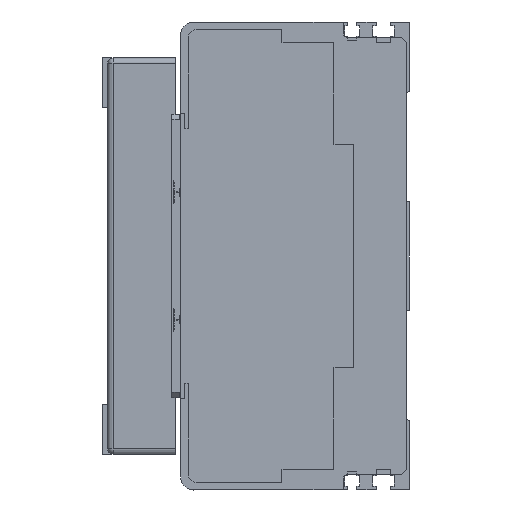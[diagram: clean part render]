
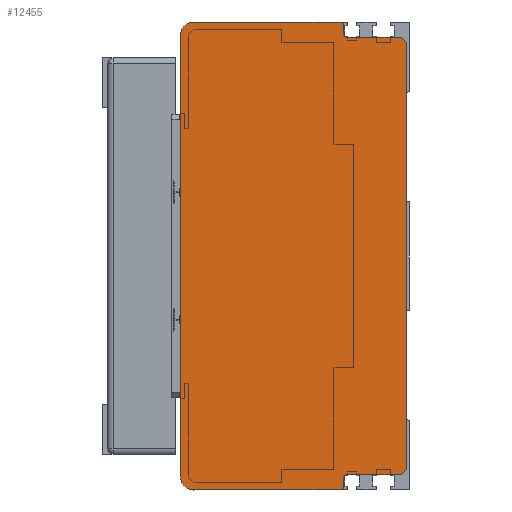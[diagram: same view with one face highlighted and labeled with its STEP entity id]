
A CAD part, left-side view. The second image highlights one B-rep face of the part: STEP entity #12455.
In plain terms, the highlighted planar face has unit normal (-1, 0, 0) as drawn and (0, 0, -1) by its records, which use the part's own axes.
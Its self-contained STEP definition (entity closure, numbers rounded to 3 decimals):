
#945=CIRCLE('',#13306,2.);
#946=CIRCLE('',#13307,5.);
#947=CIRCLE('',#13308,5.);
#948=CIRCLE('',#13309,2.);
#1252=FACE_OUTER_BOUND('',#2014,.T.);
#2014=EDGE_LOOP('',(#8458,#8459,#8460,#8461,#8462,#8463,#8464,#8465,#8466,
#8467,#8468,#8469,#8470,#8471));
#2901=LINE('',#17509,#4077);
#2902=LINE('',#17511,#4078);
#2903=LINE('',#17515,#4079);
#2904=LINE('',#17517,#4080);
#2905=LINE('',#17521,#4081);
#2906=LINE('',#17525,#4082);
#2907=LINE('',#17527,#4083);
#2908=LINE('',#17531,#4084);
#2909=LINE('',#17533,#4085);
#2910=LINE('',#17534,#4086);
#4077=VECTOR('',#14419,2.828);
#4078=VECTOR('',#14420,20.5);
#4079=VECTOR('',#14423,4.);
#4080=VECTOR('',#14424,57.5);
#4081=VECTOR('',#14427,170.);
#4082=VECTOR('',#14430,57.5);
#4083=VECTOR('',#14431,4.);
#4084=VECTOR('',#14434,20.5);
#4085=VECTOR('',#14435,2.828);
#4086=VECTOR('',#14436,164.);
#5285=VERTEX_POINT('',#17507);
#5286=VERTEX_POINT('',#17508);
#5287=VERTEX_POINT('',#17510);
#5288=VERTEX_POINT('',#17512);
#5289=VERTEX_POINT('',#17514);
#5290=VERTEX_POINT('',#17516);
#5291=VERTEX_POINT('',#17518);
#5292=VERTEX_POINT('',#17520);
#5293=VERTEX_POINT('',#17522);
#5294=VERTEX_POINT('',#17524);
#5295=VERTEX_POINT('',#17526);
#5296=VERTEX_POINT('',#17528);
#5297=VERTEX_POINT('',#17530);
#5298=VERTEX_POINT('',#17532);
#6558=EDGE_CURVE('',#5285,#5286,#2901,.T.);
#6559=EDGE_CURVE('',#5285,#5287,#2902,.T.);
#6560=EDGE_CURVE('',#5288,#5287,#945,.T.);
#6561=EDGE_CURVE('',#5288,#5289,#2903,.T.);
#6562=EDGE_CURVE('',#5289,#5290,#2904,.T.);
#6563=EDGE_CURVE('',#5290,#5291,#946,.T.);
#6564=EDGE_CURVE('',#5291,#5292,#2905,.T.);
#6565=EDGE_CURVE('',#5292,#5293,#947,.T.);
#6566=EDGE_CURVE('',#5293,#5294,#2906,.T.);
#6567=EDGE_CURVE('',#5294,#5295,#2907,.T.);
#6568=EDGE_CURVE('',#5296,#5295,#948,.T.);
#6569=EDGE_CURVE('',#5296,#5297,#2908,.T.);
#6570=EDGE_CURVE('',#5298,#5297,#2909,.T.);
#6571=EDGE_CURVE('',#5298,#5286,#2910,.T.);
#8458=ORIENTED_EDGE('',*,*,#6558,.F.);
#8459=ORIENTED_EDGE('',*,*,#6559,.T.);
#8460=ORIENTED_EDGE('',*,*,#6560,.F.);
#8461=ORIENTED_EDGE('',*,*,#6561,.T.);
#8462=ORIENTED_EDGE('',*,*,#6562,.T.);
#8463=ORIENTED_EDGE('',*,*,#6563,.T.);
#8464=ORIENTED_EDGE('',*,*,#6564,.T.);
#8465=ORIENTED_EDGE('',*,*,#6565,.T.);
#8466=ORIENTED_EDGE('',*,*,#6566,.T.);
#8467=ORIENTED_EDGE('',*,*,#6567,.T.);
#8468=ORIENTED_EDGE('',*,*,#6568,.F.);
#8469=ORIENTED_EDGE('',*,*,#6569,.T.);
#8470=ORIENTED_EDGE('',*,*,#6570,.F.);
#8471=ORIENTED_EDGE('',*,*,#6571,.T.);
#12010=PLANE('',#13305);
#12455=ADVANCED_FACE('',(#1252),#12010,.T.);
#13305=AXIS2_PLACEMENT_3D('',#17506,#14417,#14418);
#13306=AXIS2_PLACEMENT_3D('',#17513,#14421,#14422);
#13307=AXIS2_PLACEMENT_3D('',#17519,#14425,#14426);
#13308=AXIS2_PLACEMENT_3D('',#17523,#14428,#14429);
#13309=AXIS2_PLACEMENT_3D('',#17529,#14432,#14433);
#14417=DIRECTION('center_axis',(0.,0.,
-1.));
#14418=DIRECTION('ref_axis',(0.,-1.,0.));
#14419=DIRECTION('',(0.707,-0.707,0.));
#14420=DIRECTION('',(0.,1.,0.));
#14421=DIRECTION('center_axis',(0.,0.,
-1.));
#14422=DIRECTION('ref_axis',(0.707,0.707,0.));
#14423=DIRECTION('',(-1.,0.,0.));
#14424=DIRECTION('',(0.,1.,0.));
#14425=DIRECTION('center_axis',(0.,0.,
-1.));
#14426=DIRECTION('ref_axis',(-1.,0.,0.));
#14427=DIRECTION('',(1.,0.,0.));
#14428=DIRECTION('center_axis',(0.,0.,
-1.));
#14429=DIRECTION('ref_axis',(0.,1.,0.));
#14430=DIRECTION('',(0.,-1.,0.));
#14431=DIRECTION('',(-1.,0.,0.));
#14432=DIRECTION('center_axis',(0.,0.,
-1.));
#14433=DIRECTION('ref_axis',(-0.707,0.707,0.));
#14434=DIRECTION('',(0.,-1.,0.));
#14435=DIRECTION('',(0.707,0.707,0.));
#14436=DIRECTION('',(-1.,0.,0.));
#17506=CARTESIAN_POINT('Origin',(317.669,46.746,-1006.483));
#17507=CARTESIAN_POINT('',(-91.,-80.,-1006.483));
#17508=CARTESIAN_POINT('',(-89.,-82.,-1006.483));
#17509=CARTESIAN_POINT('',(-20.019,-150.981,-1006.483));
#17510=CARTESIAN_POINT('',(-91.,-59.5,-1006.483));
#17511=CARTESIAN_POINT('',(-91.,-17.627,-1006.483));
#17512=CARTESIAN_POINT('',(-93.,-57.5,-1006.483));
#17513=CARTESIAN_POINT('Origin',(-93.,-59.5,-1006.483));
#17514=CARTESIAN_POINT('',(-97.,-57.5,-1006.483));
#17515=CARTESIAN_POINT('',(-91.,-57.5,-1006.483));
#17516=CARTESIAN_POINT('',(-97.,0.,-1006.483));
#17517=CARTESIAN_POINT('',(-97.,-57.5,-1006.483));
#17518=CARTESIAN_POINT('',(-92.,5.,-1006.483));
#17519=CARTESIAN_POINT('Origin',(-92.,0.,
-1006.483));
#17520=CARTESIAN_POINT('',(78.,5.,-1006.483));
#17521=CARTESIAN_POINT('',(-92.,5.,-1006.483));
#17522=CARTESIAN_POINT('',(83.,0.,-1006.483));
#17523=CARTESIAN_POINT('Origin',(78.,0.,
-1006.483));
#17524=CARTESIAN_POINT('',(83.,-57.5,-1006.483));
#17525=CARTESIAN_POINT('',(83.,0.,-1006.483));
#17526=CARTESIAN_POINT('',(79.,-57.5,-1006.483));
#17527=CARTESIAN_POINT('',(83.,-57.5,-1006.483));
#17528=CARTESIAN_POINT('',(77.,-59.5,-1006.483));
#17529=CARTESIAN_POINT('Origin',(79.,-59.5,-1006.483));
#17530=CARTESIAN_POINT('',(77.,-80.,-1006.483));
#17531=CARTESIAN_POINT('',(77.,-57.5,-1006.483));
#17532=CARTESIAN_POINT('',(75.,-82.,-1006.483));
#17533=CARTESIAN_POINT('',(168.354,11.354,-1006.483));
#17534=CARTESIAN_POINT('',(81.,-82.,-1006.483));
